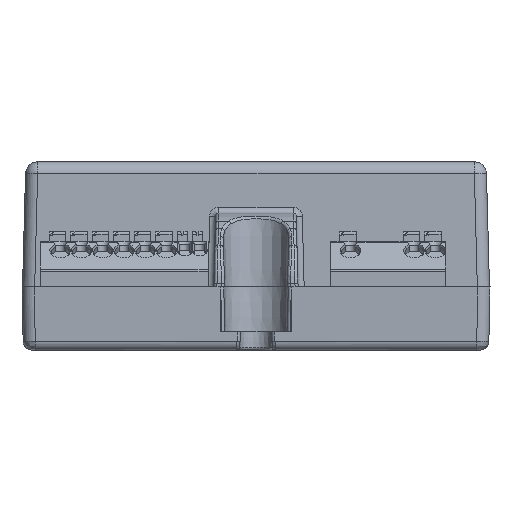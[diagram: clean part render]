
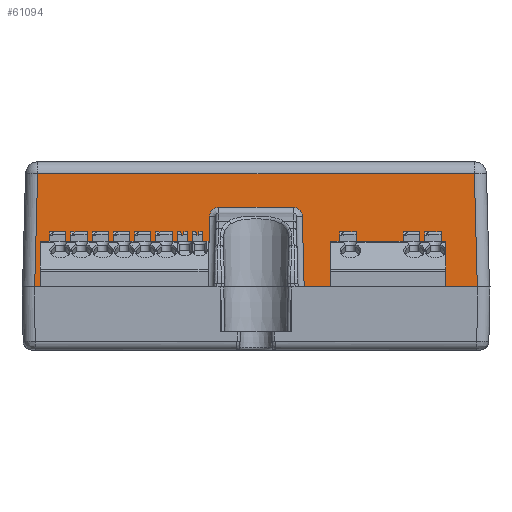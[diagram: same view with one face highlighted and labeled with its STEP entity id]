
A CAD part, left-side view. The second image highlights one B-rep face of the part: STEP entity #61094.
In plain terms, the highlighted planar face has unit normal (-1, 0, 0.026).
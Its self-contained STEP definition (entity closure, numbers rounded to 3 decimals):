
#4353=DIRECTION('',(0.,-1.,0.));
#4354=VECTOR('',#4353,71.925);
#4355=CARTESIAN_POINT('',(12.176,35.962,29.052));
#4356=LINE('',#4355,#4354);
#4357=DIRECTION('',(-0.026,-0.026,-0.999));
#4358=VECTOR('',#4357,18.665);
#4359=CARTESIAN_POINT('',(12.176,-35.963,29.052));
#4360=LINE('',#4359,#4358);
#4361=DIRECTION('',(0.,1.,0.));
#4362=VECTOR('',#4361,0.453);
#4363=CARTESIAN_POINT('',(11.687,-36.451,10.4));
#4364=LINE('',#4363,#4362);
#4365=DIRECTION('',(0.026,0.026,0.999));
#4366=VECTOR('',#4365,11.681);
#4367=CARTESIAN_POINT('',(11.687,-7.93,10.4));
#4368=LINE('',#4367,#4366);
#4369=DIRECTION('',(-0.026,0.026,-0.999));
#4370=VECTOR('',#4369,11.681);
#4371=CARTESIAN_POINT('',(11.993,7.625,22.073));
#4372=LINE('',#4371,#4370);
#4373=DIRECTION('',(0.,1.,0.));
#4374=VECTOR('',#4373,0.453);
#4375=CARTESIAN_POINT('',(11.687,35.998,10.4));
#4376=LINE('',#4375,#4374);
#4377=DIRECTION('',(0.026,-0.026,0.999));
#4378=VECTOR('',#4377,18.665);
#4379=CARTESIAN_POINT('',(11.687,36.451,10.4));
#4380=LINE('',#4379,#4378);
#4681=DIRECTION('',(0.,-1.,0.));
#4682=VECTOR('',#4681,0.05);
#4683=CARTESIAN_POINT('',(11.687,-7.93,10.4));
#4684=LINE('',#4683,#4682);
#4728=DIRECTION('',(0.,-1.,0.));
#4729=VECTOR('',#4728,0.05);
#4730=CARTESIAN_POINT('',(11.687,7.981,10.4));
#4731=LINE('',#4730,#4729);
#5089=CARTESIAN_POINT('',(11.993,7.625,22.073));
#5090=CARTESIAN_POINT('',(11.996,7.621,22.204));
#5091=CARTESIAN_POINT('',(12.003,7.581,22.457));
#5092=CARTESIAN_POINT('',(12.012,7.426,22.812));
#5093=CARTESIAN_POINT('',(12.02,7.182,23.121));
#5094=CARTESIAN_POINT('',(12.026,6.868,23.355));
#5095=CARTESIAN_POINT('',(12.03,6.508,23.499));
#5096=CARTESIAN_POINT('',(12.031,6.257,23.531));
#5097=CARTESIAN_POINT('',(12.031,6.127,23.532));
#5113=DIRECTION('',(0.,-1.,0.));
#5114=VECTOR('',#5113,12.255);
#5115=CARTESIAN_POINT('',(12.031,6.127,23.532));
#5116=LINE('',#5115,#5114);
#5126=CARTESIAN_POINT('',(12.031,-6.127,23.532));
#5127=CARTESIAN_POINT('',(12.031,-6.259,23.531));
#5128=CARTESIAN_POINT('',(12.03,-6.512,23.499));
#5129=CARTESIAN_POINT('',(12.026,-6.872,23.353));
#5130=CARTESIAN_POINT('',(12.02,-7.187,23.117));
#5131=CARTESIAN_POINT('',(12.012,-7.428,22.809));
#5132=CARTESIAN_POINT('',(12.003,-7.582,22.453));
#5133=CARTESIAN_POINT('',(11.996,-7.621,22.203));
#5134=CARTESIAN_POINT('',(11.993,-7.625,22.073));
#5150=CARTESIAN_POINT('',(11.687,-7.93,10.4));
#28870=DIRECTION('',(-0.026,-0.087,-0.996));
#28871=VECTOR('',#28870,1.908);
#28872=CARTESIAN_POINT('',(11.687,35.998,10.4));
#28873=LINE('',#28872,#28871);
#28878=DIRECTION('',(0.,-1.,0.));
#28879=VECTOR('',#28878,27.685);
#28880=CARTESIAN_POINT('',(11.637,35.832,8.5));
#28881=LINE('',#28880,#28879);
#28954=DIRECTION('',(0.026,-0.087,0.996));
#28955=VECTOR('',#28954,1.908);
#28956=CARTESIAN_POINT('',(11.637,8.147,8.5));
#28957=LINE('',#28956,#28955);
#37113=DIRECTION('',(-0.026,-0.087,-0.996));
#37114=VECTOR('',#37113,1.908);
#37115=CARTESIAN_POINT('',(11.687,-7.981,10.4));
#37116=LINE('',#37115,#37114);
#37129=DIRECTION('',(0.,-1.,0.));
#37130=VECTOR('',#37129,27.685);
#37131=CARTESIAN_POINT('',(11.637,-8.147,8.5));
#37132=LINE('',#37131,#37130);
#37141=DIRECTION('',(0.026,-0.087,0.996));
#37142=VECTOR('',#37141,1.908);
#37143=CARTESIAN_POINT('',(11.637,-35.832,8.5));
#37144=LINE('',#37143,#37142);
#48602=CARTESIAN_POINT('',(11.687,7.981,10.4));
#48603=VERTEX_POINT('',#48602);
#48604=CARTESIAN_POINT('',(11.687,7.93,10.4));
#48605=VERTEX_POINT('',#48604);
#48619=VERTEX_POINT('',#5150);
#48621=CARTESIAN_POINT('',(11.687,-7.981,10.4));
#48622=VERTEX_POINT('',#48621);
#49461=CARTESIAN_POINT('',(12.176,-35.963,
29.052));
#49462=VERTEX_POINT('',#49461);
#49463=CARTESIAN_POINT('',(11.687,-36.451,
10.4));
#49464=VERTEX_POINT('',#49463);
#49467=CARTESIAN_POINT('',(12.176,35.962,29.052));
#49468=VERTEX_POINT('',#49467);
#49471=CARTESIAN_POINT('',(11.687,-35.998,
10.4));
#49472=VERTEX_POINT('',#49471);
#49473=CARTESIAN_POINT('',(11.637,-35.832,8.5));
#49474=VERTEX_POINT('',#49473);
#49475=CARTESIAN_POINT('',(11.637,-8.147,8.5));
#49476=VERTEX_POINT('',#49475);
#49477=CARTESIAN_POINT('',(11.993,-7.625,
22.073));
#49478=VERTEX_POINT('',#49477);
#49479=VERTEX_POINT('',#5126);
#49480=CARTESIAN_POINT('',(12.031,6.127,23.532));
#49481=VERTEX_POINT('',#49480);
#49482=VERTEX_POINT('',#5089);
#49483=CARTESIAN_POINT('',(11.637,8.147,8.5));
#49484=VERTEX_POINT('',#49483);
#49485=CARTESIAN_POINT('',(11.637,35.832,8.5));
#49486=VERTEX_POINT('',#49485);
#49487=CARTESIAN_POINT('',(11.687,35.998,10.4));
#49488=VERTEX_POINT('',#49487);
#49489=CARTESIAN_POINT('',(11.687,36.451,10.4));
#49490=VERTEX_POINT('',#49489);
#61052=CARTESIAN_POINT('',(11.637,38.5,8.5));
#61053=DIRECTION('',(-1.,0.,0.026));
#61054=DIRECTION('',(0.026,0.,1.));
#61055=AXIS2_PLACEMENT_3D('',#61052,#61053,#61054);
#61056=PLANE('',#61055);
#61057=ORIENTED_EDGE('',*,*,#61043,.T.);
#61059=ORIENTED_EDGE('',*,*,#61058,.T.);
#61061=ORIENTED_EDGE('',*,*,#61060,.T.);
#61063=ORIENTED_EDGE('',*,*,#61062,.F.);
#61065=ORIENTED_EDGE('',*,*,#61064,.F.);
#61067=ORIENTED_EDGE('',*,*,#61066,.F.);
#61069=ORIENTED_EDGE('',*,*,#61068,.F.);
#61071=ORIENTED_EDGE('',*,*,#61070,.T.);
#61073=ORIENTED_EDGE('',*,*,#61072,.F.);
#61075=ORIENTED_EDGE('',*,*,#61074,.F.);
#61077=ORIENTED_EDGE('',*,*,#61076,.F.);
#61079=ORIENTED_EDGE('',*,*,#61078,.T.);
#61081=ORIENTED_EDGE('',*,*,#61080,.F.);
#61083=ORIENTED_EDGE('',*,*,#61082,.F.);
#61085=ORIENTED_EDGE('',*,*,#61084,.F.);
#61087=ORIENTED_EDGE('',*,*,#61086,.F.);
#61089=ORIENTED_EDGE('',*,*,#61088,.T.);
#61091=ORIENTED_EDGE('',*,*,#61090,.T.);
#61092=EDGE_LOOP('',(#61057,#61059,#61061,#61063,#61065,#61067,#61069,#61071,
#61073,#61075,#61077,#61079,#61081,#61083,#61085,#61087,#61089,#61091));
#61093=FACE_OUTER_BOUND('',#61092,.F.);
#61094=ADVANCED_FACE('',(#61093),#61056,.T.);
#5098=B_SPLINE_CURVE_WITH_KNOTS('',3,(#5089,#5090,#5091,#5092,#5093,#5094,#5095,
#5096,#5097),.UNSPECIFIED.,.F.,.F.,(4,1,1,1,1,1,4),(0.,0.167,
0.333,0.5,0.667,0.833,1.),
.UNSPECIFIED.);
#5135=B_SPLINE_CURVE_WITH_KNOTS('',3,(#5126,#5127,#5128,#5129,#5130,#5131,#5132,
#5133,#5134),.UNSPECIFIED.,.F.,.F.,(4,1,1,1,1,1,4),(0.,0.167,
0.333,0.5,0.667,0.833,1.),
.UNSPECIFIED.);
#61043=EDGE_CURVE('',#49468,#49462,#4356,.T.);
#61058=EDGE_CURVE('',#49462,#49464,#4360,.T.);
#61060=EDGE_CURVE('',#49464,#49472,#4364,.T.);
#61062=EDGE_CURVE('',#49474,#49472,#37144,.T.);
#61064=EDGE_CURVE('',#49476,#49474,#37132,.T.);
#61066=EDGE_CURVE('',#48622,#49476,#37116,.T.);
#61068=EDGE_CURVE('',#48619,#48622,#4684,.T.);
#61070=EDGE_CURVE('',#48619,#49478,#4368,.T.);
#61072=EDGE_CURVE('',#49479,#49478,#5135,.T.);
#61074=EDGE_CURVE('',#49481,#49479,#5116,.T.);
#61076=EDGE_CURVE('',#49482,#49481,#5098,.T.);
#61078=EDGE_CURVE('',#49482,#48605,#4372,.T.);
#61080=EDGE_CURVE('',#48603,#48605,#4731,.T.);
#61082=EDGE_CURVE('',#49484,#48603,#28957,.T.);
#61084=EDGE_CURVE('',#49486,#49484,#28881,.T.);
#61086=EDGE_CURVE('',#49488,#49486,#28873,.T.);
#61088=EDGE_CURVE('',#49488,#49490,#4376,.T.);
#61090=EDGE_CURVE('',#49490,#49468,#4380,.T.);
